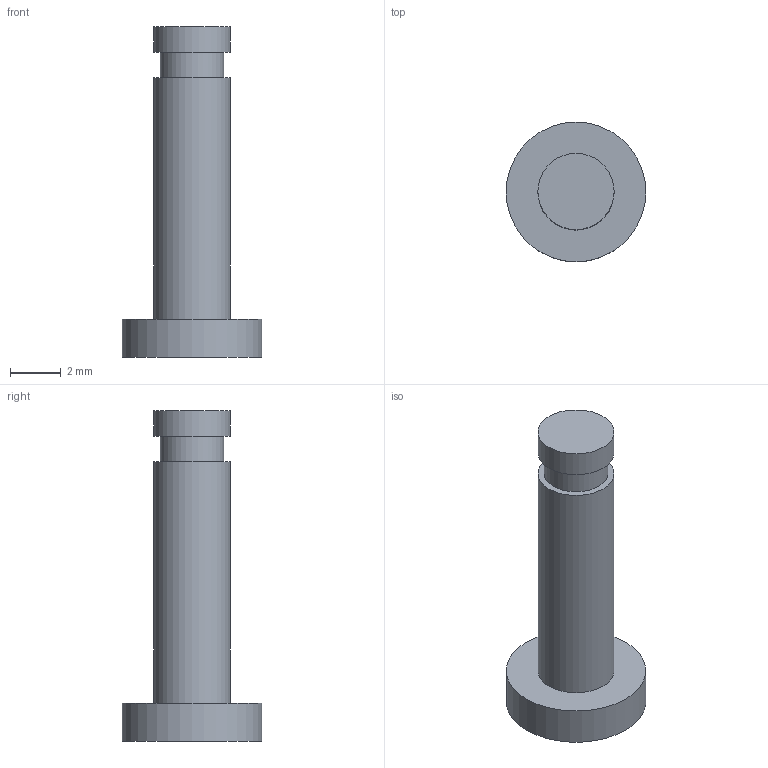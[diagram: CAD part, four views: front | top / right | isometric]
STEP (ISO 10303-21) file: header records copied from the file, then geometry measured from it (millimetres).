
FILE_DESCRIPTION(('Open CASCADE Model'),'2;1');
FILE_NAME('SCZ-PIN3-L13','2026-11-15T22:39:12',('Author'),( 'Open CASCADE'),'Open CASCADE STEP processor 8.0','build123d', 'Unknown');
FILE_SCHEMA(('AUTOMOTIVE_DESIGN { 1 0 10303 214 1 1 1 1 }'));
Length unit declared in the file: millimetre
Products named in the file (1): SCZ-PIN3-L13
Bounding box: 5.5 x 5.5 x 13 mm (x, y, z)
Volume: 114.8 mm3; surface area: 184.6 mm2
Topology: 1 solids, 1 shells, 9 faces, 12 edges, 8 vertices
Faces by surface type: plane 5, cylinder 4
Full cylindrical faces by diameter (mm): 2.5 x1, 3 x2, 5.5 x1
Entity records: 360 total; most frequent: DIRECTION 64, CARTESIAN_POINT 54, ORIENTED_EDGE 24, PCURVE 24, DEFINITIONAL_REPRESENTATION 24, LINE 20, VECTOR 20, AXIS2_PLACEMENT_3D 18
